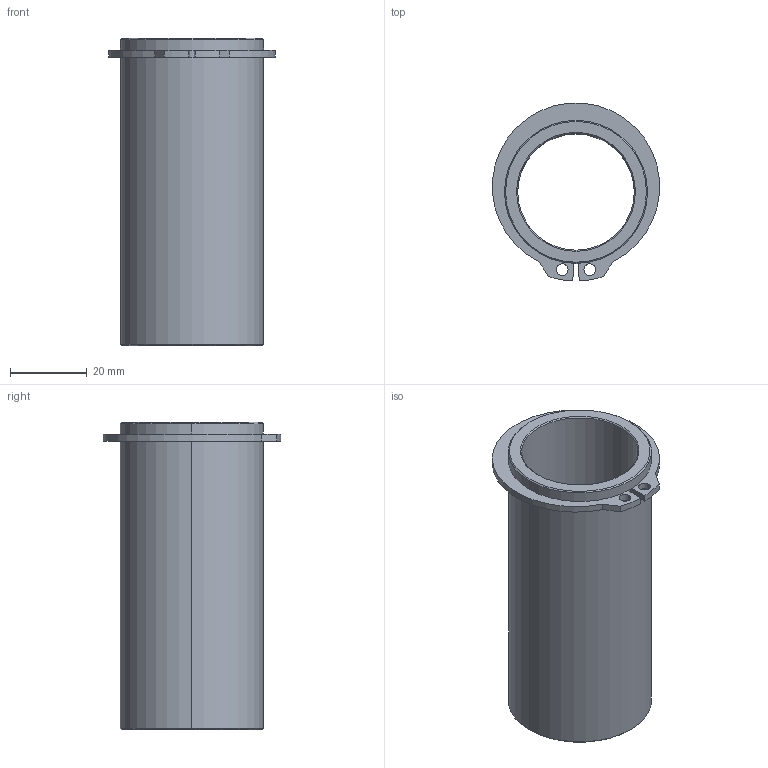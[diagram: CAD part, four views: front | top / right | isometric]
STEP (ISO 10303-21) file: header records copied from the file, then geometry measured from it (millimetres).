
FILE_DESCRIPTION((''),'2;1');
FILE_NAME('C13_030_080.stp','2008-12-17T15:07:24',(''),(''),'Mechanical Desktop 2009','Mechanical Desktop 2009',', , ');
FILE_SCHEMA(('CONFIG_CONTROL_DESIGN'));
Length unit declared in the file: millimetre
Products named in the file (2): Product; blmdl1
Assembly tree (1 placements, depth 2):
  Product
    blmdl1
Bounding box: 43.48 x 46.28 x 80 mm (x, y, z)
Volume: 30030 mm3; surface area: 19302.6 mm2
Topology: 2 solids, 2 shells, 34 faces, 76 edges, 48 vertices
Faces by surface type: cylinder 16, plane 10, cone 8
Entity records: 1075 total; most frequent: DIRECTION 188, CARTESIAN_POINT 160, ORIENTED_EDGE 152, AXIS2_PLACEMENT_3D 76, EDGE_CURVE 76, VERTEX_POINT 48, EDGE_LOOP 42, CIRCLE 40
